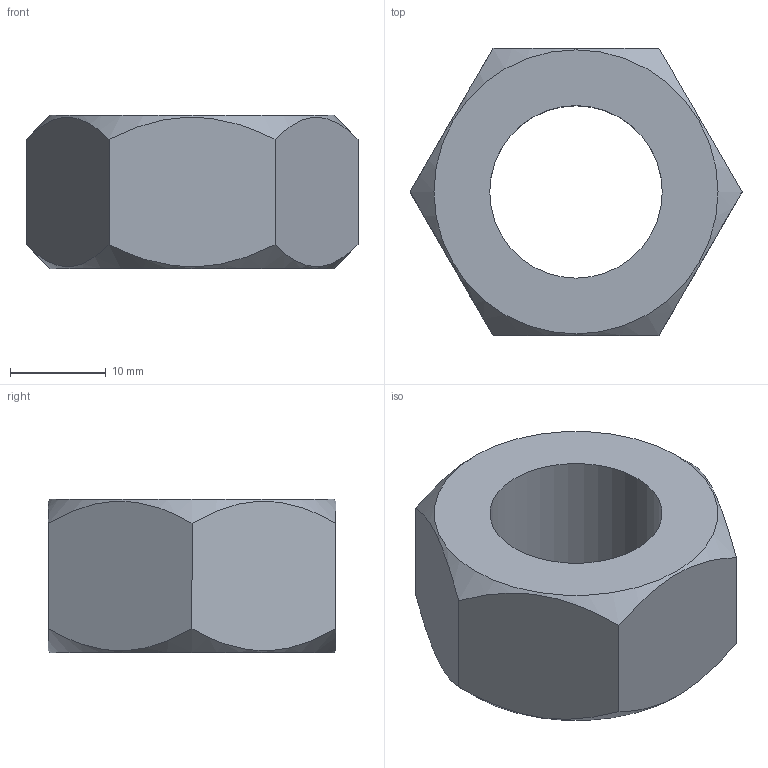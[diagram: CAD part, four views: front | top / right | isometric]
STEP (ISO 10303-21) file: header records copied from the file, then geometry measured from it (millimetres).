
FILE_DESCRIPTION(/* description */ (''),/* implementation_level */ '2;1');
FILE_NAME(/* name */ 'D:\조절자\NUT\M20 NUT.stp',/* time_stamp */ '2016-03-14T15:29:03+09:00',/* author */ ('GS-DT-1-001'),/* organization */ (''),/* preprocessor_version */ 'ST-DEVELOPER v15.6',/* originating_system */ 'Autodesk Inventor LT ',/* authorisation */ '');
FILE_SCHEMA (('AUTOMOTIVE_DESIGN { 1 0 10303 214 3 1 1 }'));
Length unit declared in the file: millimetre
Products named in the file (1): M20 NUT
Bounding box: 34.64 x 30 x 16 mm (x, y, z)
Volume: 8268.7 mm3; surface area: 3488.8 mm2
Topology: 1 solids, 1 shells, 11 faces, 25 edges, 16 vertices
Faces by surface type: plane 8, cone 2, cylinder 1
Full cylindrical faces by diameter (mm): 18 x1
Entity records: 308 total; most frequent: CARTESIAN_POINT 74, ORIENTED_EDGE 44, DIRECTION 38, EDGE_CURVE 22, EDGE_LOOP 16, VERTEX_POINT 16, AXIS2_PLACEMENT_3D 16, FACE_OUTER_BOUND 11
